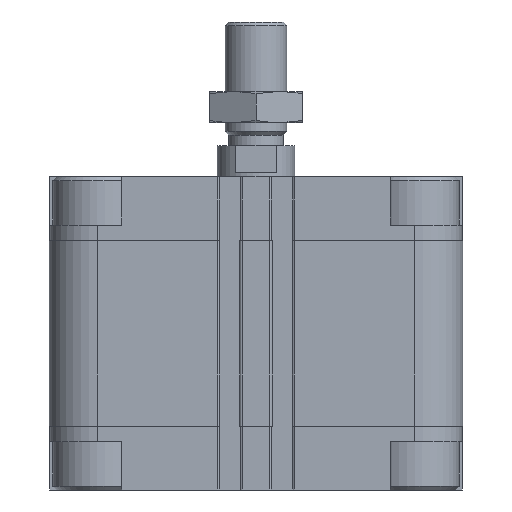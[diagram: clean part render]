
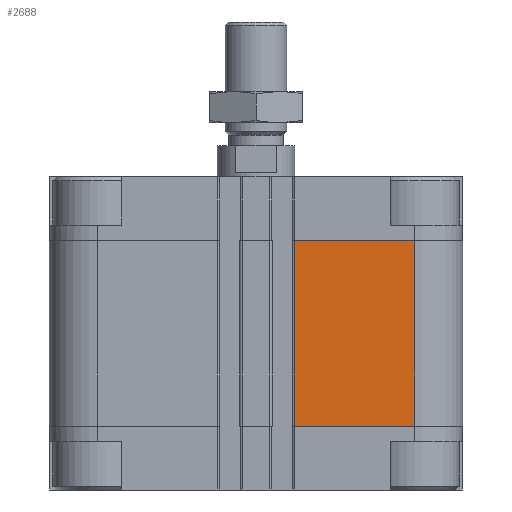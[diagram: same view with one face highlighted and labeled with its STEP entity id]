
A CAD part, front view. The second image highlights one B-rep face of the part: STEP entity #2688.
In plain terms, the highlighted planar face has unit normal (0, -1, 0).
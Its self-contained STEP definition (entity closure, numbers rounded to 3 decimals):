
#624 = EDGE_CURVE ( 'NONE', #2179, #15821, #5368, .T. ) ;
#904 = LINE ( 'NONE', #11185, #11837 ) ;
#1211 = ORIENTED_EDGE ( 'NONE', *, *, #18733, .F. ) ;
#2104 = EDGE_CURVE ( 'NONE', #20425, #2608, #6656, .T. ) ;
#2179 = VERTEX_POINT ( 'NONE', #20379 ) ;
#2381 = EDGE_LOOP ( 'NONE', ( #20404, #1211, #16101, #11715 ) ) ;
#2608 = VERTEX_POINT ( 'NONE', #5632 ) ;
#2688 = ADVANCED_FACE ( 'NONE', ( #15518 ), #12108, .T. ) ;
#2918 = VECTOR ( 'NONE', #17524, 1000. ) ;
#3526 = DIRECTION ( 'NONE',  ( 0., 0., 1. ) ) ;
#3999 = AXIS2_PLACEMENT_3D ( 'NONE', #10454, #19130, #20351 ) ;
#4949 = CARTESIAN_POINT ( 'NONE',  ( 41., -53.5, -64.5 ) ) ;
#5368 = LINE ( 'NONE', #13701, #2918 ) ;
#5632 = CARTESIAN_POINT ( 'NONE',  ( 41., -53.5, -16.5 ) ) ;
#6264 = DIRECTION ( 'NONE',  ( 0., 0., 1. ) ) ;
#6640 = EDGE_CURVE ( 'NONE', #15821, #2608, #18557, .T. ) ;
#6656 = LINE ( 'NONE', #14899, #20850 ) ;
#9374 = VECTOR ( 'NONE', #3526, 1000. ) ;
#10454 = CARTESIAN_POINT ( 'NONE',  ( 9.95, -53.5, -64.5 ) ) ;
#10570 = CARTESIAN_POINT ( 'NONE',  ( 41., -53.5, -64.5 ) ) ;
#11185 = CARTESIAN_POINT ( 'NONE',  ( 9.95, -53.5, -64.5 ) ) ;
#11715 = ORIENTED_EDGE ( 'NONE', *, *, #6640, .T. ) ;
#11837 = VECTOR ( 'NONE', #6264, 1000. ) ;
#12108 = PLANE ( 'NONE',  #3999 ) ;
#12616 = CARTESIAN_POINT ( 'NONE',  ( 9.95, -53.5, -16.5 ) ) ;
#13701 = CARTESIAN_POINT ( 'NONE',  ( 9.95, -53.5, -64.5 ) ) ;
#14899 = CARTESIAN_POINT ( 'NONE',  ( 9.95, -53.5, -16.5 ) ) ;
#15518 = FACE_OUTER_BOUND ( 'NONE', #2381, .T. ) ;
#15821 = VERTEX_POINT ( 'NONE', #10570 ) ;
#16101 = ORIENTED_EDGE ( 'NONE', *, *, #624, .T. ) ;
#17524 = DIRECTION ( 'NONE',  ( 1., 0., 0. ) ) ;
#18557 = LINE ( 'NONE', #4949, #9374 ) ;
#18733 = EDGE_CURVE ( 'NONE', #2179, #20425, #904, .T. ) ;
#19130 = DIRECTION ( 'NONE',  ( 0., -1., 0. ) ) ;
#20351 = DIRECTION ( 'NONE',  ( -1., 0., 0. ) ) ;
#20379 = CARTESIAN_POINT ( 'NONE',  ( 9.95, -53.5, -64.5 ) ) ;
#20404 = ORIENTED_EDGE ( 'NONE', *, *, #2104, .F. ) ;
#20425 = VERTEX_POINT ( 'NONE', #12616 ) ;
#20850 = VECTOR ( 'NONE', #21595, 1000. ) ;
#21595 = DIRECTION ( 'NONE',  ( 1., 0., 0. ) ) ;
